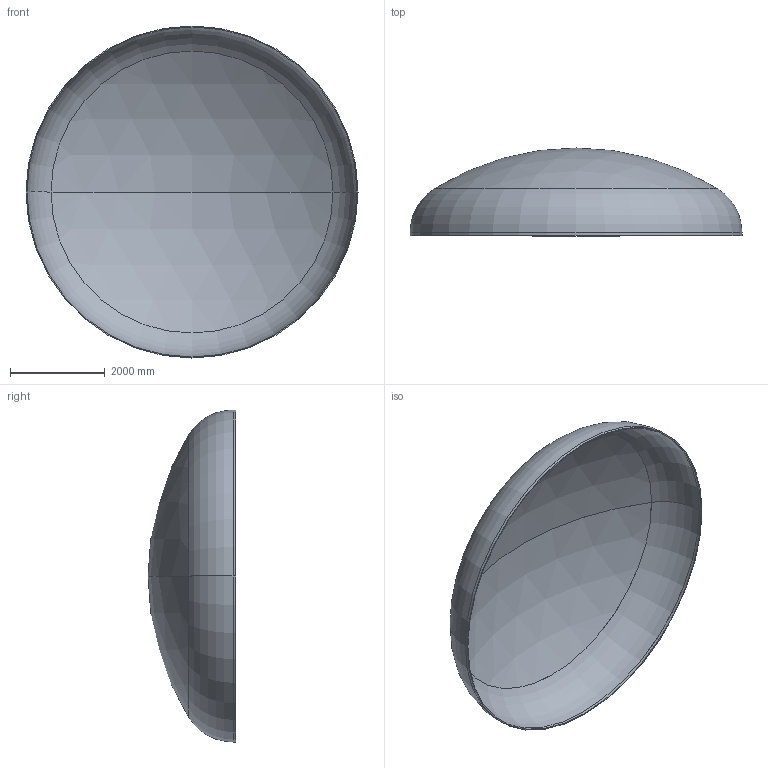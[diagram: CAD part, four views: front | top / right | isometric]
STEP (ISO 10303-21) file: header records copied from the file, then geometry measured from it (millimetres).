
FILE_DESCRIPTION (( 'STEP AP203' ), '1' );
FILE_NAME ('DIN 28013 Korbbogenform_-_Boden DIN 28013 - 7000 x 60 - I - s=20.step', '2016-07-04T10:45:45', ( '' ), ( '' ), 'SwSTEP 2.0', 'SolidWorks 2013', '' );
FILE_SCHEMA (( 'CONFIG_CONTROL_DESIGN' ));
Length unit declared in the file: millimetre
Products named in the file (1): DIN 28013 Korbbogenform_-_Boden DIN 28013 - 7000 x 60 - I - s=20
Bounding box: 7000 x 1849.8 x 7000 mm (x, y, z)
Volume: 1088765016.3 mm3; surface area: 109315861.3 mm2
Topology: 1 solids, 1 shells, 13 faces, 24 edges, 14 vertices
Faces by surface type: torus 4, cylinder 4, sphere 4, plane 1
Entity records: 407 total; most frequent: DIRECTION 72, CARTESIAN_POINT 52, ORIENTED_EDGE 48, AXIS2_PLACEMENT_3D 34, EDGE_CURVE 24, CIRCLE 20, EDGE_LOOP 14, VERTEX_POINT 14
